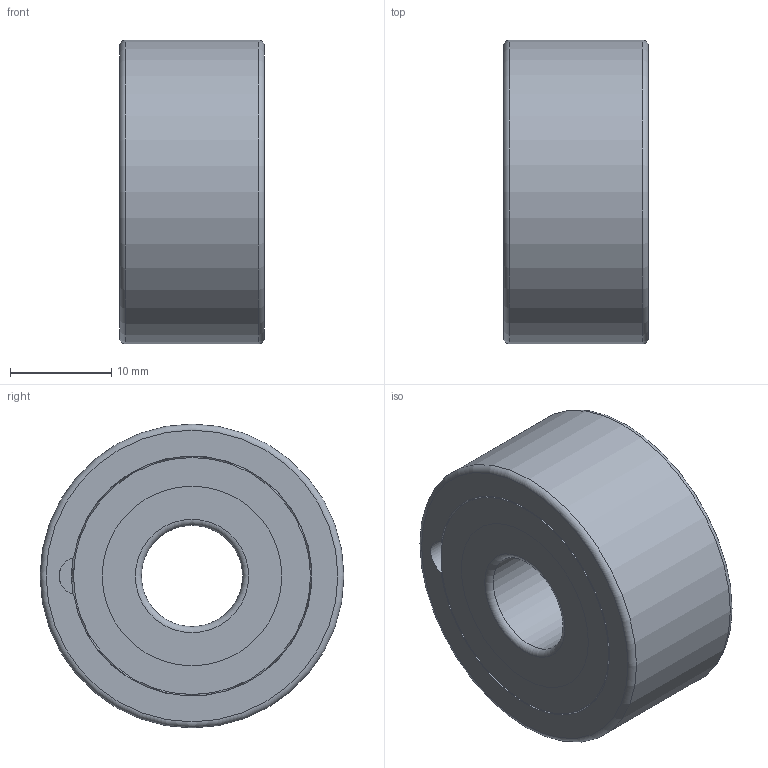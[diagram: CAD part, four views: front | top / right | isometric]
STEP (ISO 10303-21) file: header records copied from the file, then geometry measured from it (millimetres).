
FILE_DESCRIPTION(/* description */ (''),/* implementation_level */ '2;1');
FILE_NAME(/* name */ '3200E-2RS.stp',/* time_stamp */ '2024-11-06T10:14:32+01:00',/* author */ ('OUPIONTEKM'),/* organization */ (''),/* preprocessor_version */ 'ST-DEVELOPER v20',/* originating_system */ 'Autodesk Inventor 2025',/* authorisation */ '');
FILE_SCHEMA (('AUTOMOTIVE_DESIGN { 1 0 10303 214 3 1 1 }'));
Length unit declared in the file: millimetre
Products named in the file (6): 3200E; 3200E-02; 3200E-cage; 3200E-ball; 3200E-01; RS
Assembly tree (37 placements, depth 2):
  3200E
    3200E-02
    3200E-cage  x2
    3200E-ball  x32
    3200E-01
    RS
Bounding box: 14.3 x 30 x 30 mm (x, y, z)
Volume: 7259.1 mm3; surface area: 7563.6 mm2
Topology: 38 solids, 38 shells, 446 faces, 1316 edges, 878 vertices
Faces by surface type: bspline 192, sphere 96, cylinder 77, plane 73, torus 8
Full cylindrical faces by diameter (mm): 10 x1, 16.238 x1, 17.742 x4, 22.258 x1, 23.404 x1, 23.687 x2, 30 x1
Entity records: 11393 total; most frequent: CARTESIAN_POINT 5471, ORIENTED_EDGE 1288, DIRECTION 1035, EDGE_CURVE 644, VERTEX_POINT 431, AXIS2_PLACEMENT_3D 431, CIRCLE 245, EDGE_LOOP 231
